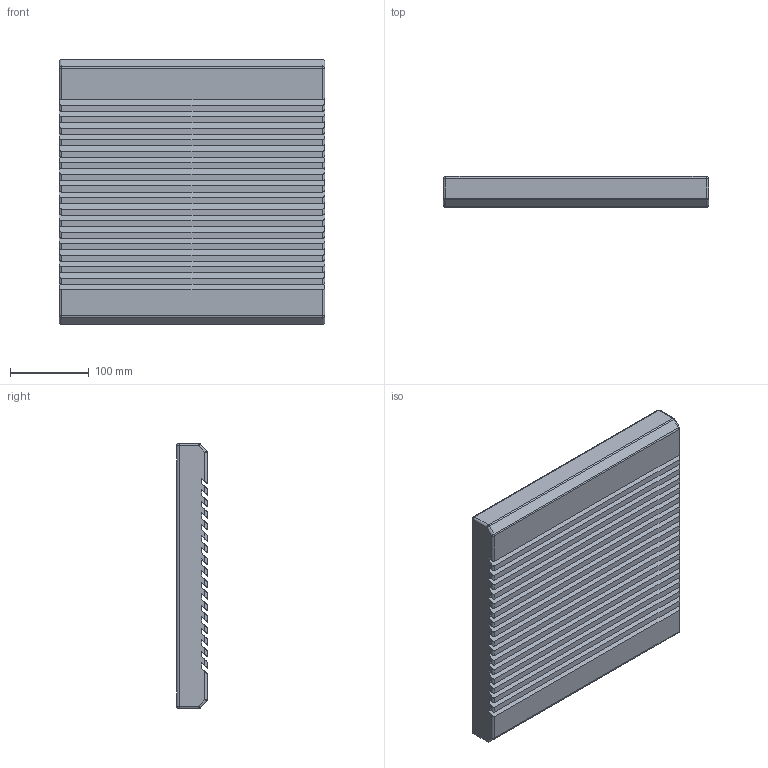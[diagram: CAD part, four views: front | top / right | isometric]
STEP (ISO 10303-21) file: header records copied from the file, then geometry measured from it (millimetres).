
FILE_DESCRIPTION(/* description */ (''),/* implementation_level */ '2;1');
FILE_NAME(/* name */ 'Z:\Output\G_250-00256-005.stp',/* time_stamp */ '2017-07-11T15:55:05+02:00',/* author */ ('engineering1'),/* organization */ (''),/* preprocessor_version */ 'ST-DEVELOPER v16.5',/* originating_system */ 'Autodesk Inventor 2017',/* authorisation */ '');
FILE_SCHEMA (('AUTOMOTIVE_DESIGN { 1 0 10303 214 3 1 1 }'));
Length unit declared in the file: millimetre
Products named in the file (1): G-1
Bounding box: 337 x 39 x 337 mm (x, y, z)
Volume: 3894589.7 mm3; surface area: 387531.7 mm2
Topology: 1 solids, 1 shells, 160 faces, 426 edges, 268 vertices
Faces by surface type: plane 88, cylinder 56, sphere 12, cone 4
Full cylindrical faces by diameter (mm): 5.2 x4
Entity records: 4872 total; most frequent: DIRECTION 848, CARTESIAN_POINT 839, ORIENTED_EDGE 828, EDGE_CURVE 414, LINE 302, VECTOR 302, AXIS2_PLACEMENT_3D 273, VERTEX_POINT 264
